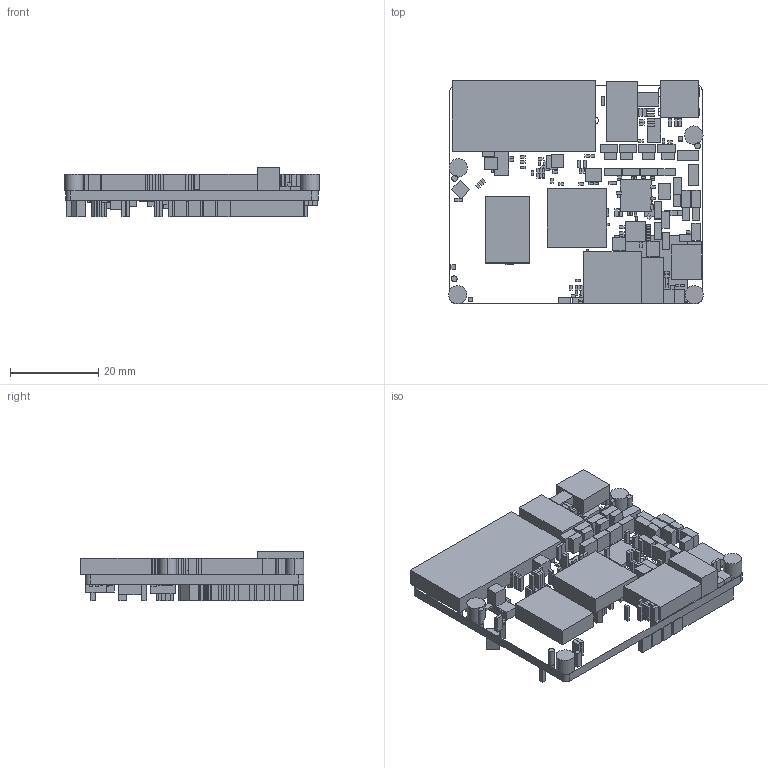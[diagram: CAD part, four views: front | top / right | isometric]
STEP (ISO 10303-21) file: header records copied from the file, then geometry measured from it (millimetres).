
FILE_DESCRIPTION(/* description */ ('PCB Design'),/* implementation_level */ '2;1');
FILE_NAME(/* name */ 'H28K-V2-20240219',/* time_stamp */ '2024-02-27T15:44:20+08:00',/* author */ ('caoweiwei'),/* organization */ (''),/* preprocessor_version */ 'ST-DEVELOPER v15',/* originating_system */ 'allegro_16.6-2015S112',/* authorisation */ '');
FILE_SCHEMA (('AUTOMOTIVE_DESIGN'));
Length unit declared in the file: millimetre
Products named in the file (44): H28K-V2-20240219; BOARD; COMPONENTS; KEY_3X4X2; SMT_1M25_4_LS; SMAF; C1206; H2MM3_4MM; CRY4_3R20X2R50X0R80; SON10_2R50X1R00X0R50; TF9_TFP09-2-12B; LC0402SN; LC0403SN; NP-C1P20; MARK1_0; SR0402; SR0201; IND_252012; IND_404018; SC0201; SOD_323; DFN1006-2LO-N; LED0603W; SC0402; SC0603; TC-1321; SOT_323; SOT_23; SOT-223; CRY4_2R50X2R00X0R80; SOT_23_6; USB-TH_USB-265-BRY; ESSOP10-5X6-1P00-PAD; RJ45-TH_KH-56-8P8C-1X2-D; USB-C-SMD_TYPEC-324G-BCP24; QFN32_4R00X4R00X0R90_T; QFN40_5R00X5R00X0R90_T; BGA153_13RX11R5X0R9_2L; TP_0R50; BGA200_15R0X10R0X0R9_2L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
Assembly tree (235 placements, depth 3):
  H28K-V2-20240219
    BOARD
    COMPONENTS
      KEY_3X4X2
      SMT_1M25_4_LS
      SMAF
      C1206  x2
      H2MM3_4MM  x4
      CRY4_3R20X2R50X0R80
      SON10_2R50X1R00X0R50  x3
      TF9_TFP09-2-12B
      LC0402SN  x8
      LC0403SN  x8
      NP-C1P20  x3
      MARK1_0  x4
      SR0402
      SR0201  x29
      IND_252012  x6
      IND_404018  x2
      SC0201  x5
      SOD_323  x8
      DFN1006-2LO-N  x6
      LED0603W  x4
      SC0402  x2
      SC0603  x6
      TC-1321
      SOT_323  x3
      SOT_23
      SOT-223
      CRY4_2R50X2R00X0R80  x2
      SOT_23_6  x2
      USB-TH_USB-265-BRY
      ESSOP10-5X6-1P00-PAD
      RJ45-TH_KH-56-8P8C-1X2-D
      USB-C-SMD_TYPEC-324G-BCP24
      QFN32_4R00X4R00X0R90_T
      QFN40_5R00X5R00X0R90_T
      BGA153_13RX11R5X0R9_2L
      TP_0R50
      BGA200_15R0X10R0X0R9_2L
      BGA401_13R50X13R30X1R25
      C0402_BGA  x6
      R0402  x14
      R0201  x87
Bounding box: 57.76 x 50.77 x 11.28 mm (x, y, z)
Surface area: 16263.2 mm2 (no closed solid volume)
Topology: 0 solids, 234 shells, 1529 faces, 3487 edges, 2130 vertices
Faces by surface type: plane 1403, cylinder 126
Entity records: 13951 total; most frequent: ORIENTED_EDGE 1818, DIRECTION 1429, CARTESIAN_POINT 1380, AXIS2_PLACEMENT_3D 1089, EDGE_CURVE 1005, VERTEX_POINT 798, VECTOR 773, LINE 773
